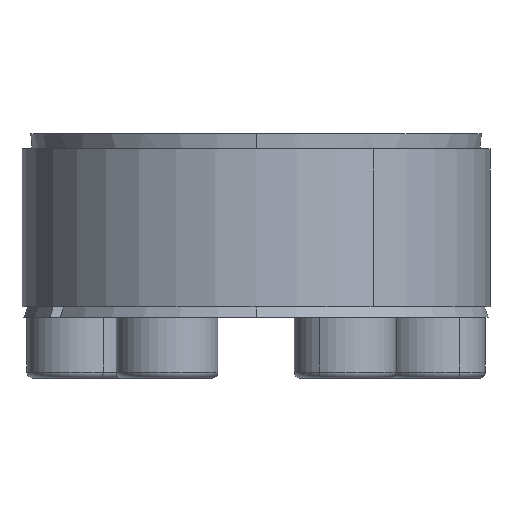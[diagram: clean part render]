
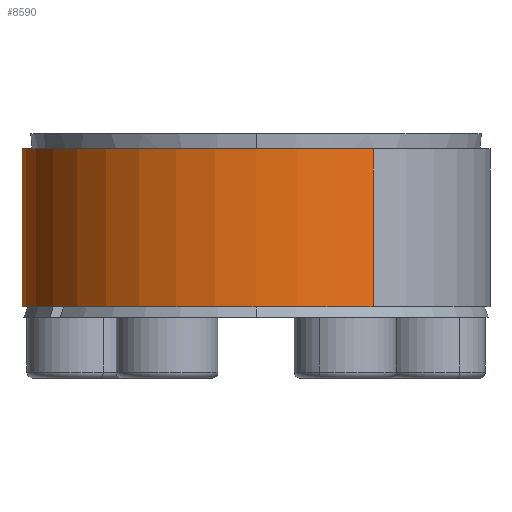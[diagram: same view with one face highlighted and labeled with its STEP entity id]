
A CAD part, left-side view. The second image highlights one B-rep face of the part: STEP entity #8590.
In plain terms, the highlighted cylindrical face has radius 22.99 mm (diameter 45.98 mm), a partial arc.
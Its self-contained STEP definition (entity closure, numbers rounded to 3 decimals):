
#170 = DIRECTION ( 'NONE',  ( 0., 0., -1. ) ) ;
#411 = VERTEX_POINT ( 'NONE', #2326 ) ;
#641 = DIRECTION ( 'NONE',  ( 0., 0., 1. ) ) ;
#880 = CARTESIAN_POINT ( 'NONE',  ( 19.91, 11.495, 16.527 ) ) ;
#1493 = EDGE_CURVE ( 'NONE', #411, #6054, #2232, .T. ) ;
#1518 = EDGE_CURVE ( 'NONE', #7666, #7237, #8252, .T. ) ;
#1804 = CARTESIAN_POINT ( 'NONE',  ( 19.91, 11.495, 16.527 ) ) ;
#2232 = LINE ( 'NONE', #5408, #4230 ) ;
#2326 = CARTESIAN_POINT ( 'NONE',  ( -19.91, -11.495, 16.527 ) ) ;
#2902 = AXIS2_PLACEMENT_3D ( 'NONE', #3083, #8354, #3822 ) ;
#3082 = CARTESIAN_POINT ( 'NONE',  ( -19.91, -11.495, 1.027 ) ) ;
#3083 = CARTESIAN_POINT ( 'NONE',  ( 0., 0., 1.027 ) ) ;
#3822 = DIRECTION ( 'NONE',  ( -0.866, -0.5, 0. ) ) ;
#3837 = EDGE_CURVE ( 'NONE', #7237, #6054, #7351, .T. ) ;
#3859 = ORIENTED_EDGE ( 'NONE', *, *, #7955, .F. ) ;
#3871 = DIRECTION ( 'NONE',  ( 0., 0., -1. ) ) ;
#4230 = VECTOR ( 'NONE', #170, 1000. ) ;
#4235 = EDGE_LOOP ( 'NONE', ( #7906, #3859, #6880, #5297 ) ) ;
#4957 = CARTESIAN_POINT ( 'NONE',  ( 19.91, 11.495, 1.027 ) ) ;
#4962 = CYLINDRICAL_SURFACE ( 'NONE', #8102, 22.99 ) ;
#5130 = CARTESIAN_POINT ( 'NONE',  ( 0., 0., 16.527 ) ) ;
#5297 = ORIENTED_EDGE ( 'NONE', *, *, #3837, .T. ) ;
#5348 = CARTESIAN_POINT ( 'NONE',  ( 0., 0., 16.527 ) ) ;
#5408 = CARTESIAN_POINT ( 'NONE',  ( -19.91, -11.495, 16.527 ) ) ;
#5898 = DIRECTION ( 'NONE',  ( -0.866, -0.5, 0. ) ) ;
#5996 = VECTOR ( 'NONE', #7692, 1000. ) ;
#6054 = VERTEX_POINT ( 'NONE', #3082 ) ;
#6286 = CIRCLE ( 'NONE', #7024, 22.99 ) ;
#6880 = ORIENTED_EDGE ( 'NONE', *, *, #1518, .T. ) ;
#6914 = DIRECTION ( 'NONE',  ( 0.866, 0.5, 0. ) ) ;
#7024 = AXIS2_PLACEMENT_3D ( 'NONE', #5130, #641, #5898 ) ;
#7237 = VERTEX_POINT ( 'NONE', #4957 ) ;
#7351 = CIRCLE ( 'NONE', #2902, 22.99 ) ;
#7666 = VERTEX_POINT ( 'NONE', #1804 ) ;
#7692 = DIRECTION ( 'NONE',  ( 0., 0., -1. ) ) ;
#7906 = ORIENTED_EDGE ( 'NONE', *, *, #1493, .F. ) ;
#7923 = FACE_OUTER_BOUND ( 'NONE', #4235, .T. ) ;
#7955 = EDGE_CURVE ( 'NONE', #7666, #411, #6286, .T. ) ;
#8102 = AXIS2_PLACEMENT_3D ( 'NONE', #5348, #3871, #6914 ) ;
#8252 = LINE ( 'NONE', #880, #5996 ) ;
#8354 = DIRECTION ( 'NONE',  ( 0., 0., 1. ) ) ;
#8590 = ADVANCED_FACE ( 'NONE', ( #7923 ), #4962, .T. ) ;
